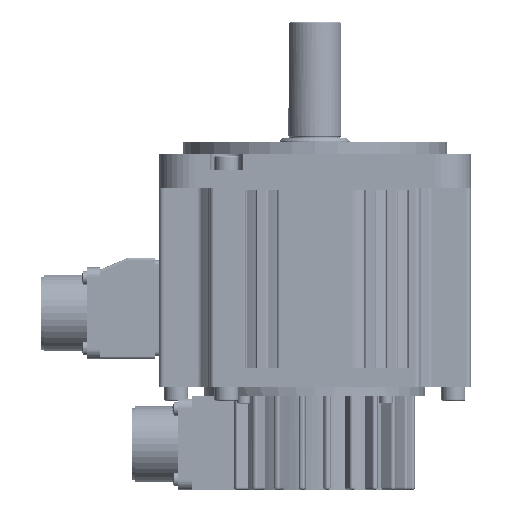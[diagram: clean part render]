
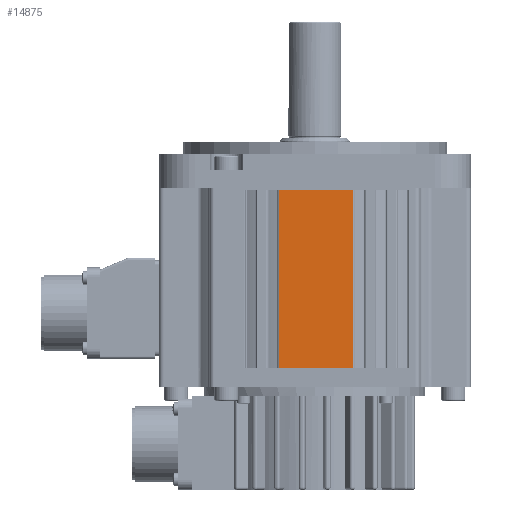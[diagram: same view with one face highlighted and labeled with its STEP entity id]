
A CAD part, front view. The second image highlights one B-rep face of the part: STEP entity #14875.
In plain terms, the highlighted planar face has unit normal (0, -1, 0) as drawn and (0, 0, -1) by its records, which use the part's own axes.
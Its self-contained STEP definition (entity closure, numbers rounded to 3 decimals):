
#9129=DIRECTION('',(-1.,0.,0.));
#9130=VECTOR('',#9129,30.8);
#9131=CARTESIAN_POINT('',(15.9,0.,-65.));
#9132=LINE('',#9131,#9130);
#9524=DIRECTION('',(-1.,0.,0.));
#9525=VECTOR('',#9524,30.8);
#9526=CARTESIAN_POINT('',(15.9,74.,-65.));
#9527=LINE('',#9526,#9525);
#10834=DIRECTION('',(0.,-1.,0.));
#10835=VECTOR('',#10834,74.);
#10836=CARTESIAN_POINT('',(15.9,74.,-65.));
#10837=LINE('',#10836,#10835);
#10838=DIRECTION('',(0.,1.,0.));
#10839=VECTOR('',#10838,74.);
#10840=CARTESIAN_POINT('',(-14.9,0.,-65.));
#10841=LINE('',#10840,#10839);
#11672=CARTESIAN_POINT('',(15.9,0.,-65.));
#11674=VERTEX_POINT('',#11672);
#11678=CARTESIAN_POINT('',(15.9,74.,-65.));
#11679=VERTEX_POINT('',#11678);
#11680=CARTESIAN_POINT('',(-14.9,74.,-65.));
#11682=VERTEX_POINT('',#11680);
#11686=CARTESIAN_POINT('',(-14.9,0.,-65.));
#11687=VERTEX_POINT('',#11686);
#14862=CARTESIAN_POINT('',(43.9,0.,-65.));
#14863=DIRECTION('',(0.,0.,-1.));
#14864=DIRECTION('',(-1.,0.,0.));
#14865=AXIS2_PLACEMENT_3D('',#14862,#14863,#14864);
#14866=PLANE('',#14865);
#14868=ORIENTED_EDGE('',*,*,#14867,.F.);
#14869=ORIENTED_EDGE('',*,*,#12944,.T.);
#14871=ORIENTED_EDGE('',*,*,#14870,.F.);
#14872=ORIENTED_EDGE('',*,*,#12658,.F.);
#14873=EDGE_LOOP('',(#14868,#14869,#14871,#14872));
#14874=FACE_OUTER_BOUND('',#14873,.F.);
#14875=ADVANCED_FACE('',(#14874),#14866,.T.);
#12658=EDGE_CURVE('',#11674,#11687,#9132,.T.);
#12944=EDGE_CURVE('',#11679,#11682,#9527,.T.);
#14867=EDGE_CURVE('',#11679,#11674,#10837,.T.);
#14870=EDGE_CURVE('',#11687,#11682,#10841,.T.);
